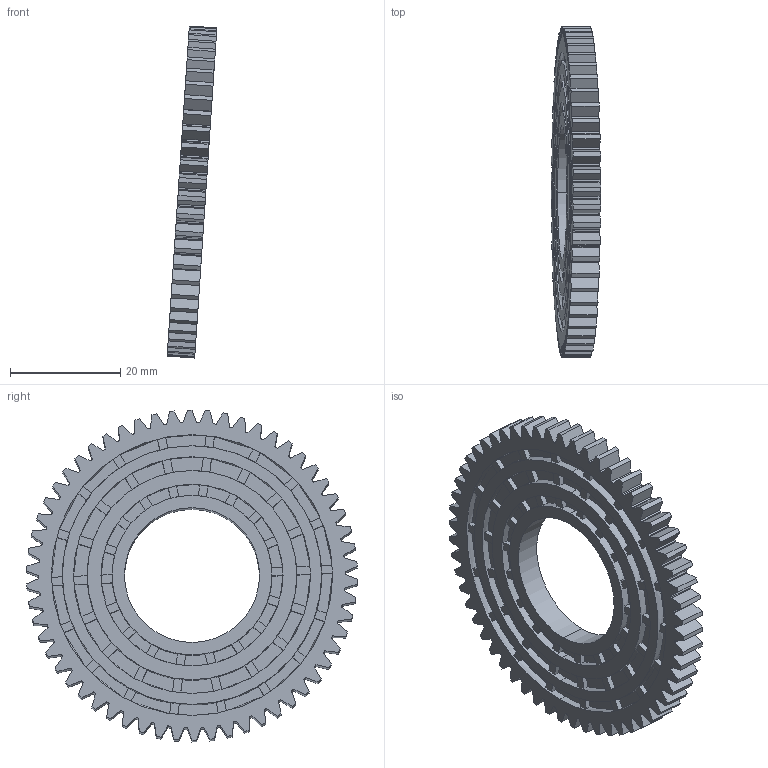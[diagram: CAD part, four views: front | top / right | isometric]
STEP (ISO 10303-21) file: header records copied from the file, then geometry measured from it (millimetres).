
FILE_DESCRIPTION (( 'STEP AP203' ), '1' );
FILE_NAME ('Roue_2_Défaut_sldprt.STEP', '2018-04-06T14:28:56', ( '' ), ( '' ), 'SwSTEP 2.0', 'SolidWorks 2013', '' );
FILE_SCHEMA (( 'CONFIG_CONTROL_DESIGN' ));
Length unit declared in the file: millimetre
Products named in the file (1): Roue_2_Défaut_sldprt
Bounding box: 9.02 x 59.96 x 60.19 mm (x, y, z)
Volume: 8503.6 mm3; surface area: 8725 mm2
Topology: 1 solids, 1 shells, 805 faces, 2370 edges, 1572 vertices
Faces by surface type: plane 625, cylinder 180
Entity records: 27065 total; most frequent: DIRECTION 4774, CARTESIAN_POINT 4748, ORIENTED_EDGE 4740, EDGE_CURVE 2370, AXIS2_PLACEMENT_3D 1598, VECTOR 1578, LINE 1578, VERTEX_POINT 1572
